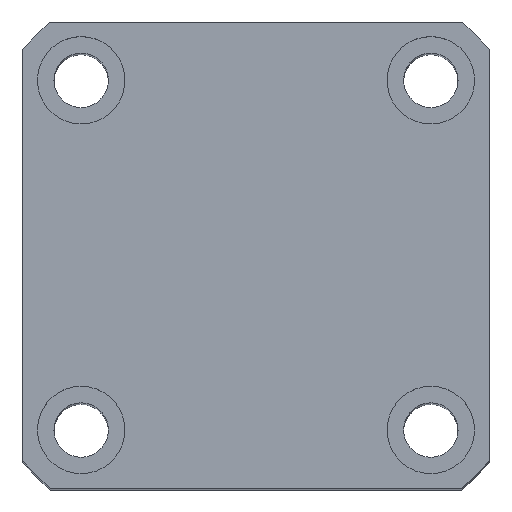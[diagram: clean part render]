
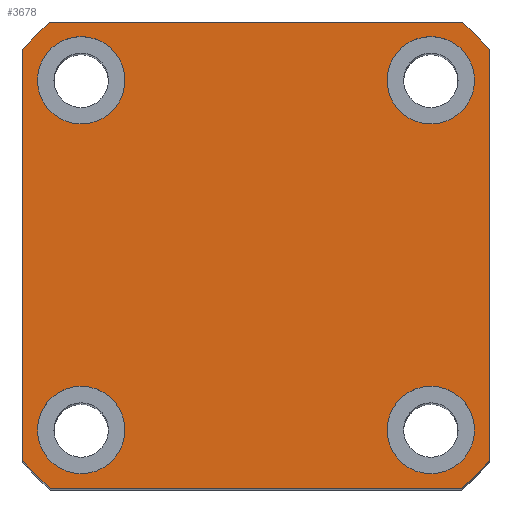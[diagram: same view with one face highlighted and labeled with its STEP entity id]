
A CAD part, top view. The second image highlights one B-rep face of the part: STEP entity #3678.
In plain terms, the highlighted planar face has unit normal (0, 0, 1) as drawn and (1, 0, 0) by its records, which use the part's own axes.
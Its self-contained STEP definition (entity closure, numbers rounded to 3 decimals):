
#36 = CARTESIAN_POINT ( 'NONE',  ( 105., 18., 18. ) ) ;
#45 = AXIS2_PLACEMENT_3D ( 'NONE', #6856, #3140, #7482 ) ;
#65 = DIRECTION ( 'NONE',  ( 1., 0., 0. ) ) ;
#89 = DIRECTION ( 'NONE',  ( 0., 0., -1. ) ) ;
#96 = AXIS2_PLACEMENT_3D ( 'NONE', #1124, #1155, #1186 ) ;
#128 = DIRECTION ( 'NONE',  ( 0., 0., -1. ) ) ;
#265 = DIRECTION ( 'NONE',  ( 0., -1., 0. ) ) ;
#283 = VERTEX_POINT ( 'NONE', #2016 ) ;
#586 = DIRECTION ( 'NONE',  ( 0., 0., -1. ) ) ;
#756 = CARTESIAN_POINT ( 'NONE',  ( 105., -18., 13.5 ) ) ;
#762 = VERTEX_POINT ( 'NONE', #6351 ) ;
#809 = CARTESIAN_POINT ( 'NONE',  ( 105., -18., 18. ) ) ;
#836 = FACE_BOUND ( 'NONE', #3101, .T. ) ;
#861 = EDGE_CURVE ( 'NONE', #4439, #7662, #4062, .T. ) ;
#990 = VECTOR ( 'NONE', #3389, 1000. ) ;
#1124 = CARTESIAN_POINT ( 'NONE',  ( 105., -18., -18. ) ) ;
#1155 = DIRECTION ( 'NONE',  ( 1., 0., 0. ) ) ;
#1186 = DIRECTION ( 'NONE',  ( 0., 0., -1. ) ) ;
#1190 = CARTESIAN_POINT ( 'NONE',  ( 105., 18., -18. ) ) ;
#1267 = ORIENTED_EDGE ( 'NONE', *, *, #7056, .F. ) ;
#1287 = ORIENTED_EDGE ( 'NONE', *, *, #2844, .T. ) ;
#1306 = AXIS2_PLACEMENT_3D ( 'NONE', #809, #5152, #1440 ) ;
#1440 = DIRECTION ( 'NONE',  ( 0., 0., -1. ) ) ;
#1470 = DIRECTION ( 'NONE',  ( 1., 0., 0. ) ) ;
#1480 = EDGE_CURVE ( 'NONE', #6986, #2695, #6315, .T. ) ;
#1643 = CARTESIAN_POINT ( 'NONE',  ( 105., -18., -22.5 ) ) ;
#1650 = EDGE_LOOP ( 'NONE', ( #3378, #3769 ) ) ;
#1680 = EDGE_CURVE ( 'NONE', #7662, #4439, #5898, .T. ) ;
#1804 = DIRECTION ( 'NONE',  ( 0., 0., -1. ) ) ;
#2016 = CARTESIAN_POINT ( 'NONE',  ( 105., -18., 22.5 ) ) ;
#2024 = CARTESIAN_POINT ( 'NONE',  ( 105., -24., 21.166 ) ) ;
#2099 = CARTESIAN_POINT ( 'NONE',  ( 105., 0., 0. ) ) ;
#2112 = AXIS2_PLACEMENT_3D ( 'NONE', #8035, #4305, #586 ) ;
#2136 = AXIS2_PLACEMENT_3D ( 'NONE', #5176, #1470, #5802 ) ;
#2249 = VERTEX_POINT ( 'NONE', #756 ) ;
#2261 = EDGE_CURVE ( 'NONE', #762, #3787, #5220, .T. ) ;
#2272 = FACE_BOUND ( 'NONE', #4532, .T. ) ;
#2277 = AXIS2_PLACEMENT_3D ( 'NONE', #6466, #2757, #7088 ) ;
#2383 = VECTOR ( 'NONE', #7811, 1000. ) ;
#2488 = ORIENTED_EDGE ( 'NONE', *, *, #861, .F. ) ;
#2494 = VERTEX_POINT ( 'NONE', #7107 ) ;
#2564 = EDGE_CURVE ( 'NONE', #3617, #5267, #4433, .T. ) ;
#2590 = VECTOR ( 'NONE', #3946, 1000. ) ;
#2595 = ORIENTED_EDGE ( 'NONE', *, *, #7097, .F. ) ;
#2632 = EDGE_CURVE ( 'NONE', #6973, #3548, #4217, .T. ) ;
#2695 = VERTEX_POINT ( 'NONE', #7888 ) ;
#2736 = DIRECTION ( 'NONE',  ( 0., 0., -1. ) ) ;
#2757 = DIRECTION ( 'NONE',  ( 1., 0., 0. ) ) ;
#2774 = CIRCLE ( 'NONE', #5584, 32. ) ;
#2784 = CARTESIAN_POINT ( 'NONE',  ( 105., 24., 24. ) ) ;
#2810 = CARTESIAN_POINT ( 'NONE',  ( 105., 18., 18. ) ) ;
#2844 = EDGE_CURVE ( 'NONE', #5267, #6973, #4904, .T. ) ;
#3101 = EDGE_LOOP ( 'NONE', ( #4645, #3937 ) ) ;
#3140 = DIRECTION ( 'NONE',  ( 1., 0., 0. ) ) ;
#3187 = AXIS2_PLACEMENT_3D ( 'NONE', #36, #65, #89 ) ;
#3378 = ORIENTED_EDGE ( 'NONE', *, *, #7199, .F. ) ;
#3389 = DIRECTION ( 'NONE',  ( 0., 0., 1. ) ) ;
#3412 = DIRECTION ( 'NONE',  ( 0., 0., -1. ) ) ;
#3491 = AXIS2_PLACEMENT_3D ( 'NONE', #2099, #6450, #2736 ) ;
#3497 = EDGE_LOOP ( 'NONE', ( #2488, #6531 ) ) ;
#3507 = DIRECTION ( 'NONE',  ( 1., 0., 0. ) ) ;
#3548 = VERTEX_POINT ( 'NONE', #6366 ) ;
#3617 = VERTEX_POINT ( 'NONE', #2024 ) ;
#3632 = CARTESIAN_POINT ( 'NONE',  ( 105., -21.166, -24. ) ) ;
#3678 = ADVANCED_FACE ( 'NONE', ( #5384, #2272, #836, #7054, #3709 ), #4549, .T. ) ;
#3709 = FACE_OUTER_BOUND ( 'NONE', #3985, .T. ) ;
#3769 = ORIENTED_EDGE ( 'NONE', *, *, #1480, .F. ) ;
#3787 = VERTEX_POINT ( 'NONE', #5947 ) ;
#3804 = EDGE_CURVE ( 'NONE', #4358, #3617, #2774, .T. ) ;
#3861 = DIRECTION ( 'NONE',  ( 1., 0., 0. ) ) ;
#3937 = ORIENTED_EDGE ( 'NONE', *, *, #2261, .F. ) ;
#3946 = DIRECTION ( 'NONE',  ( 0., 0., -1. ) ) ;
#3966 = EDGE_CURVE ( 'NONE', #7451, #8019, #7133, .T. ) ;
#3985 = EDGE_LOOP ( 'NONE', ( #7483, #7595, #4681, #5258, #5443, #5654, #7498, #1287 ) ) ;
#4062 = CIRCLE ( 'NONE', #8068, 4.5 ) ;
#4100 = AXIS2_PLACEMENT_3D ( 'NONE', #7597, #3861, #128 ) ;
#4217 = LINE ( 'NONE', #5342, #2383 ) ;
#4305 = DIRECTION ( 'NONE',  ( 1., 0., 0. ) ) ;
#4358 = VERTEX_POINT ( 'NONE', #4380 ) ;
#4380 = CARTESIAN_POINT ( 'NONE',  ( 105., -21.166, 24. ) ) ;
#4384 = VECTOR ( 'NONE', #265, 1000. ) ;
#4433 = LINE ( 'NONE', #5212, #2590 ) ;
#4439 = VERTEX_POINT ( 'NONE', #1643 ) ;
#4491 = CIRCLE ( 'NONE', #2136, 4.5 ) ;
#4532 = EDGE_LOOP ( 'NONE', ( #2595, #1267 ) ) ;
#4549 = PLANE ( 'NONE',  #3491 ) ;
#4636 = AXIS2_PLACEMENT_3D ( 'NONE', #2810, #7143, #3412 ) ;
#4645 = ORIENTED_EDGE ( 'NONE', *, *, #6943, .F. ) ;
#4681 = ORIENTED_EDGE ( 'NONE', *, *, #7150, .T. ) ;
#4904 = CIRCLE ( 'NONE', #45, 32. ) ;
#5136 = CARTESIAN_POINT ( 'NONE',  ( 105., -18., -13.5 ) ) ;
#5152 = DIRECTION ( 'NONE',  ( 1., 0., 0. ) ) ;
#5176 = CARTESIAN_POINT ( 'NONE',  ( 105., -18., 18. ) ) ;
#5212 = CARTESIAN_POINT ( 'NONE',  ( 105., -24., 24. ) ) ;
#5220 = CIRCLE ( 'NONE', #4100, 4.5 ) ;
#5258 = ORIENTED_EDGE ( 'NONE', *, *, #3966, .T. ) ;
#5267 = VERTEX_POINT ( 'NONE', #5274 ) ;
#5274 = CARTESIAN_POINT ( 'NONE',  ( 105., -24., -21.166 ) ) ;
#5342 = CARTESIAN_POINT ( 'NONE',  ( 105., 24., -24. ) ) ;
#5384 = FACE_BOUND ( 'NONE', #3497, .T. ) ;
#5443 = ORIENTED_EDGE ( 'NONE', *, *, #7725, .T. ) ;
#5528 = DIRECTION ( 'NONE',  ( 1., 0., 0. ) ) ;
#5559 = CARTESIAN_POINT ( 'NONE',  ( 105., 24., 21.166 ) ) ;
#5584 = AXIS2_PLACEMENT_3D ( 'NONE', #7246, #3507, #7872 ) ;
#5654 = ORIENTED_EDGE ( 'NONE', *, *, #3804, .T. ) ;
#5758 = CIRCLE ( 'NONE', #4636, 4.5 ) ;
#5802 = DIRECTION ( 'NONE',  ( 0., 0., -1. ) ) ;
#5898 = CIRCLE ( 'NONE', #96, 4.5 ) ;
#5937 = LINE ( 'NONE', #2784, #990 ) ;
#5947 = CARTESIAN_POINT ( 'NONE',  ( 105., 18., -22.5 ) ) ;
#6201 = CARTESIAN_POINT ( 'NONE',  ( 105., 21.166, 24. ) ) ;
#6315 = CIRCLE ( 'NONE', #3187, 4.5 ) ;
#6351 = CARTESIAN_POINT ( 'NONE',  ( 105., 18., -13.5 ) ) ;
#6366 = CARTESIAN_POINT ( 'NONE',  ( 105., 21.166, -24. ) ) ;
#6439 = LINE ( 'NONE', #7727, #4384 ) ;
#6450 = DIRECTION ( 'NONE',  ( 1., 0., 0. ) ) ;
#6459 = AXIS2_PLACEMENT_3D ( 'NONE', #1190, #5528, #1804 ) ;
#6466 = CARTESIAN_POINT ( 'NONE',  ( 105., 0., 0. ) ) ;
#6531 = ORIENTED_EDGE ( 'NONE', *, *, #1680, .F. ) ;
#6626 = EDGE_CURVE ( 'NONE', #3548, #2494, #7503, .T. ) ;
#6713 = CIRCLE ( 'NONE', #6459, 4.5 ) ;
#6856 = CARTESIAN_POINT ( 'NONE',  ( 105., 0., 0. ) ) ;
#6943 = EDGE_CURVE ( 'NONE', #3787, #762, #6713, .T. ) ;
#6973 = VERTEX_POINT ( 'NONE', #3632 ) ;
#6986 = VERTEX_POINT ( 'NONE', #8024 ) ;
#7054 = FACE_BOUND ( 'NONE', #1650, .T. ) ;
#7056 = EDGE_CURVE ( 'NONE', #283, #2249, #7971, .T. ) ;
#7088 = DIRECTION ( 'NONE',  ( 0., 0., -1. ) ) ;
#7097 = EDGE_CURVE ( 'NONE', #2249, #283, #4491, .T. ) ;
#7107 = CARTESIAN_POINT ( 'NONE',  ( 105., 24., -21.166 ) ) ;
#7133 = CIRCLE ( 'NONE', #2112, 32. ) ;
#7143 = DIRECTION ( 'NONE',  ( 1., 0., 0. ) ) ;
#7150 = EDGE_CURVE ( 'NONE', #2494, #7451, #5937, .T. ) ;
#7186 = DIRECTION ( 'NONE',  ( 0., 0., -1. ) ) ;
#7199 = EDGE_CURVE ( 'NONE', #2695, #6986, #5758, .T. ) ;
#7246 = CARTESIAN_POINT ( 'NONE',  ( 105., 0., 0. ) ) ;
#7451 = VERTEX_POINT ( 'NONE', #5559 ) ;
#7482 = DIRECTION ( 'NONE',  ( 0., 0., -1. ) ) ;
#7483 = ORIENTED_EDGE ( 'NONE', *, *, #2632, .T. ) ;
#7498 = ORIENTED_EDGE ( 'NONE', *, *, #2564, .T. ) ;
#7503 = CIRCLE ( 'NONE', #2277, 32. ) ;
#7595 = ORIENTED_EDGE ( 'NONE', *, *, #6626, .T. ) ;
#7597 = CARTESIAN_POINT ( 'NONE',  ( 105., 18., -18. ) ) ;
#7662 = VERTEX_POINT ( 'NONE', #5136 ) ;
#7725 = EDGE_CURVE ( 'NONE', #8019, #4358, #6439, .T. ) ;
#7727 = CARTESIAN_POINT ( 'NONE',  ( 105., 24., 24. ) ) ;
#7810 = CARTESIAN_POINT ( 'NONE',  ( 105., -18., -18. ) ) ;
#7811 = DIRECTION ( 'NONE',  ( 0., 1., 0. ) ) ;
#7865 = DIRECTION ( 'NONE',  ( 1., 0., 0. ) ) ;
#7872 = DIRECTION ( 'NONE',  ( 0., 0., -1. ) ) ;
#7888 = CARTESIAN_POINT ( 'NONE',  ( 105., 18., 13.5 ) ) ;
#7971 = CIRCLE ( 'NONE', #1306, 4.5 ) ;
#8019 = VERTEX_POINT ( 'NONE', #6201 ) ;
#8024 = CARTESIAN_POINT ( 'NONE',  ( 105., 18., 22.5 ) ) ;
#8035 = CARTESIAN_POINT ( 'NONE',  ( 105., 0., 0. ) ) ;
#8068 = AXIS2_PLACEMENT_3D ( 'NONE', #7810, #7865, #7186 ) ;
